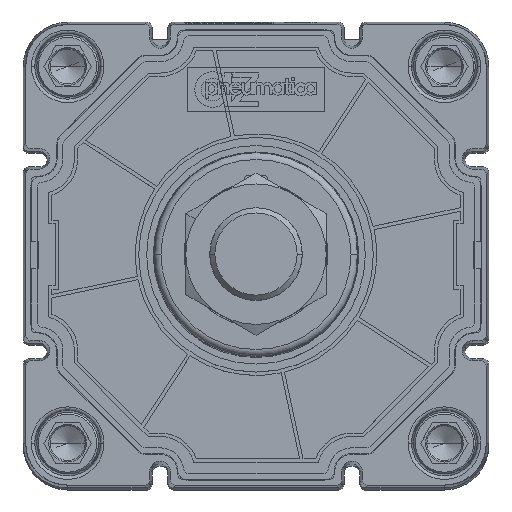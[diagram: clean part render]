
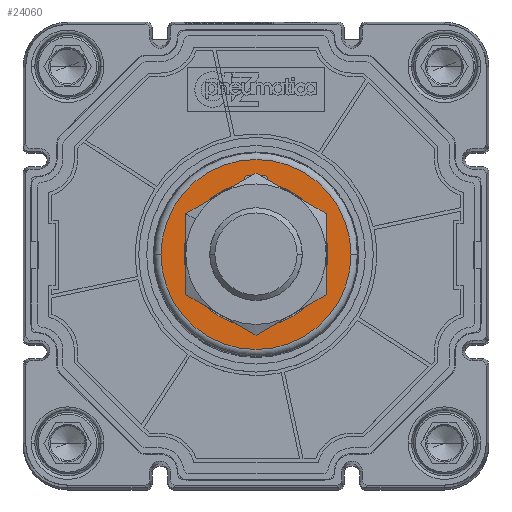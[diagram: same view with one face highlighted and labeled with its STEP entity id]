
A CAD part, top view. The second image highlights one B-rep face of the part: STEP entity #24060.
In plain terms, the highlighted planar face has unit normal (0, 0, 1) as drawn and (0, 0, -1) by its records, which use the part's own axes.
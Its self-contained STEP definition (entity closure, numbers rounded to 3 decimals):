
#293 = DIRECTION ( 'NONE',  ( 0., 0., 1. ) ) ;
#913 = EDGE_CURVE ( 'NONE', #12208, #44462, #51494, .T. ) ;
#1592 = CARTESIAN_POINT ( 'NONE',  ( 3.5, 20.706, -82.7 ) ) ;
#1860 = CARTESIAN_POINT ( 'NONE',  ( -2.5, 22.2, -82.7 ) ) ;
#1958 = CARTESIAN_POINT ( 'NONE',  ( -3.5, 20.706, -82.7 ) ) ;
#6828 = CIRCLE ( 'NONE', #14554, 1. ) ;
#7143 = AXIS2_PLACEMENT_3D ( 'NONE', #36938, #53846, #31926 ) ;
#8166 = VERTEX_POINT ( 'NONE', #22185 ) ;
#8680 = CARTESIAN_POINT ( 'NONE',  ( 0., 27.738, -82.7 ) ) ;
#8942 = ORIENTED_EDGE ( 'NONE', *, *, #36475, .F. ) ;
#10127 = EDGE_LOOP ( 'NONE', ( #57161, #8942 ) ) ;
#10208 = EDGE_CURVE ( 'NONE', #43012, #8166, #28411, .T. ) ;
#10973 = CARTESIAN_POINT ( 'NONE',  ( 2.5, 23.2, -82.7 ) ) ;
#11104 = CARTESIAN_POINT ( 'NONE',  ( -27.738, 0., -82.7 ) ) ;
#12208 = VERTEX_POINT ( 'NONE', #50685 ) ;
#13647 = CARTESIAN_POINT ( 'NONE',  ( -21., 0., -82.7 ) ) ;
#14064 = EDGE_CURVE ( 'NONE', #20782, #59998, #28794, .T. ) ;
#14198 = DIRECTION ( 'NONE',  ( 0., 0., 1. ) ) ;
#14554 = AXIS2_PLACEMENT_3D ( 'NONE', #37425, #26232, #16344 ) ;
#14786 = DIRECTION ( 'NONE',  ( 1., 0., 0. ) ) ;
#15450 = CARTESIAN_POINT ( 'NONE',  ( 2.5, 23.2, -82.7 ) ) ;
#16344 = DIRECTION ( 'NONE',  ( -1., 0., 0. ) ) ;
#18020 = DIRECTION ( 'NONE',  ( 0., 0., -1. ) ) ;
#19006 = EDGE_LOOP ( 'NONE', ( #36525, #57870, #63146, #48662, #59441, #55909, #65947, #65294 ) ) ;
#19698 = CARTESIAN_POINT ( 'NONE',  ( -3.5, 22.2, -82.7 ) ) ;
#20782 = VERTEX_POINT ( 'NONE', #36479 ) ;
#22185 = CARTESIAN_POINT ( 'NONE',  ( 21., 0., -82.7 ) ) ;
#22545 = AXIS2_PLACEMENT_3D ( 'NONE', #26583, #293, #54443 ) ;
#23584 = VERTEX_POINT ( 'NONE', #1592 ) ;
#24060 = ADVANCED_FACE ( 'NONE', ( #62977, #67296 ), #30236, .F. ) ;
#24358 = AXIS2_PLACEMENT_3D ( 'NONE', #43140, #59801, #48828 ) ;
#25979 = EDGE_CURVE ( 'NONE', #27799, #20782, #30957, .T. ) ;
#26176 = DIRECTION ( 'NONE',  ( 1., 0., 0. ) ) ;
#26232 = DIRECTION ( 'NONE',  ( 0., 0., -1. ) ) ;
#26583 = CARTESIAN_POINT ( 'NONE',  ( 0., 0., -82.7 ) ) ;
#27799 = VERTEX_POINT ( 'NONE', #48946 ) ;
#28411 = CIRCLE ( 'NONE', #40630, 21. ) ;
#28794 = LINE ( 'NONE', #10973, #50121 ) ;
#30236 = PLANE ( 'NONE',  #50564 ) ;
#30354 = AXIS2_PLACEMENT_3D ( 'NONE', #58015, #42753, #14786 ) ;
#30747 = LINE ( 'NONE', #41414, #58948 ) ;
#30957 = CIRCLE ( 'NONE', #52968, 1. ) ;
#31014 = CARTESIAN_POINT ( 'NONE',  ( 3.5, 22.2, -82.7 ) ) ;
#31926 = DIRECTION ( 'NONE',  ( 1., 0., 0. ) ) ;
#33976 = EDGE_CURVE ( 'NONE', #53752, #43012, #36558, .T. ) ;
#34509 = EDGE_CURVE ( 'NONE', #8166, #23584, #39044, .T. ) ;
#35318 = DIRECTION ( 'NONE',  ( 0., 1., 0. ) ) ;
#36475 = EDGE_CURVE ( 'NONE', #44462, #12208, #45569, .T. ) ;
#36479 = CARTESIAN_POINT ( 'NONE',  ( -2.5, 23.2, -82.7 ) ) ;
#36525 = ORIENTED_EDGE ( 'NONE', *, *, #33976, .T. ) ;
#36558 = CIRCLE ( 'NONE', #22545, 21. ) ;
#36892 = DIRECTION ( 'NONE',  ( 0., 0., 1. ) ) ;
#36938 = CARTESIAN_POINT ( 'NONE',  ( 0., 0., -82.7 ) ) ;
#37425 = CARTESIAN_POINT ( 'NONE',  ( 2.5, 22.2, -82.7 ) ) ;
#39044 = CIRCLE ( 'NONE', #24358, 21. ) ;
#40630 = AXIS2_PLACEMENT_3D ( 'NONE', #59025, #36892, #26176 ) ;
#41414 = CARTESIAN_POINT ( 'NONE',  ( 3.5, 22.2, -82.7 ) ) ;
#41635 = DIRECTION ( 'NONE',  ( 0., -1., 0. ) ) ;
#42753 = DIRECTION ( 'NONE',  ( 0., 0., 1. ) ) ;
#43012 = VERTEX_POINT ( 'NONE', #13647 ) ;
#43140 = CARTESIAN_POINT ( 'NONE',  ( 0., 0., -82.7 ) ) ;
#43513 = DIRECTION ( 'NONE',  ( 1., 0., 0. ) ) ;
#44462 = VERTEX_POINT ( 'NONE', #11104 ) ;
#45569 = CIRCLE ( 'NONE', #30354, 27.738 ) ;
#48662 = ORIENTED_EDGE ( 'NONE', *, *, #53102, .F. ) ;
#48828 = DIRECTION ( 'NONE',  ( 1., 0., 0. ) ) ;
#48946 = CARTESIAN_POINT ( 'NONE',  ( -3.5, 22.2, -82.7 ) ) ;
#50121 = VECTOR ( 'NONE', #43513, 1000. ) ;
#50564 = AXIS2_PLACEMENT_3D ( 'NONE', #8680, #14198, #52172 ) ;
#50685 = CARTESIAN_POINT ( 'NONE',  ( 27.738, 0., -82.7 ) ) ;
#51494 = CIRCLE ( 'NONE', #7143, 27.738 ) ;
#52172 = DIRECTION ( 'NONE',  ( 1., 0., 0. ) ) ;
#52234 = EDGE_CURVE ( 'NONE', #53752, #27799, #60859, .T. ) ;
#52968 = AXIS2_PLACEMENT_3D ( 'NONE', #1860, #18020, #67156 ) ;
#53102 = EDGE_CURVE ( 'NONE', #59861, #23584, #30747, .T. ) ;
#53752 = VERTEX_POINT ( 'NONE', #1958 ) ;
#53846 = DIRECTION ( 'NONE',  ( 0., 0., 1. ) ) ;
#54443 = DIRECTION ( 'NONE',  ( 1., 0., 0. ) ) ;
#55909 = ORIENTED_EDGE ( 'NONE', *, *, #14064, .F. ) ;
#57161 = ORIENTED_EDGE ( 'NONE', *, *, #913, .F. ) ;
#57870 = ORIENTED_EDGE ( 'NONE', *, *, #10208, .T. ) ;
#58015 = CARTESIAN_POINT ( 'NONE',  ( 0., 0., -82.7 ) ) ;
#58948 = VECTOR ( 'NONE', #41635, 1000. ) ;
#59025 = CARTESIAN_POINT ( 'NONE',  ( 0., 0., -82.7 ) ) ;
#59441 = ORIENTED_EDGE ( 'NONE', *, *, #67962, .F. ) ;
#59801 = DIRECTION ( 'NONE',  ( 0., 0., 1. ) ) ;
#59861 = VERTEX_POINT ( 'NONE', #31014 ) ;
#59998 = VERTEX_POINT ( 'NONE', #15450 ) ;
#60048 = VECTOR ( 'NONE', #35318, 1000. ) ;
#60859 = LINE ( 'NONE', #19698, #60048 ) ;
#62977 = FACE_OUTER_BOUND ( 'NONE', #10127, .T. ) ;
#63146 = ORIENTED_EDGE ( 'NONE', *, *, #34509, .T. ) ;
#65294 = ORIENTED_EDGE ( 'NONE', *, *, #52234, .F. ) ;
#65947 = ORIENTED_EDGE ( 'NONE', *, *, #25979, .F. ) ;
#67156 = DIRECTION ( 'NONE',  ( 1., 0., 0. ) ) ;
#67296 = FACE_BOUND ( 'NONE', #19006, .T. ) ;
#67962 = EDGE_CURVE ( 'NONE', #59998, #59861, #6828, .T. ) ;
